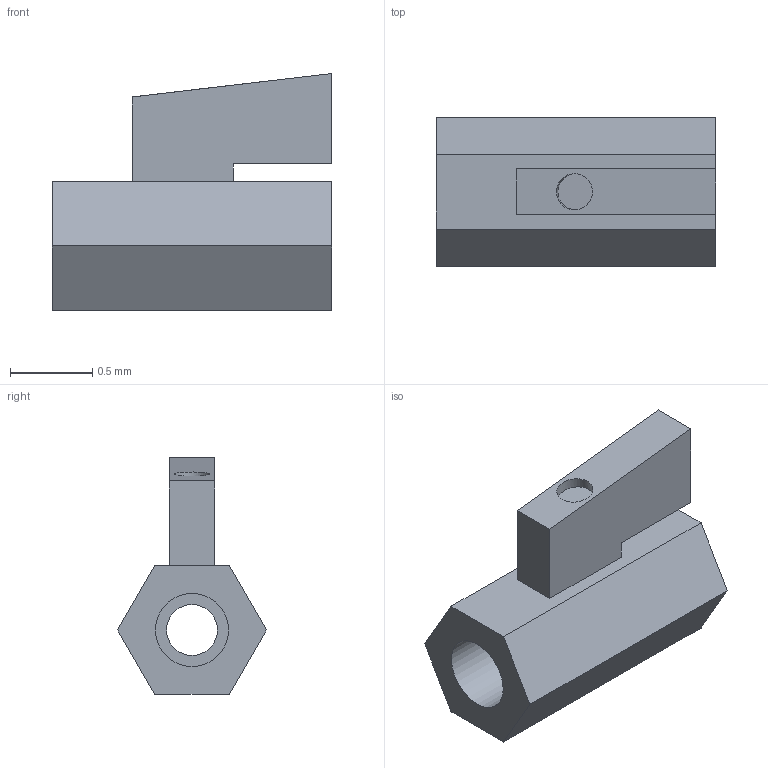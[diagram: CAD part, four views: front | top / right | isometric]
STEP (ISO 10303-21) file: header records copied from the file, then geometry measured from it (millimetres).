
FILE_DESCRIPTION(('Open CASCADE Model'),'2;1');
FILE_NAME('Open CASCADE Shape Model','2021-09-22T11:51:58',('Author'),( 'Open CASCADE'),'Open CASCADE STEP processor 7.3','Open CASCADE 7.3' ,'Unknown');
FILE_SCHEMA(('AUTOMOTIVE_DESIGN { 1 0 10303 214 1 1 1 1 }'));
Length unit declared in the file: millimetre
Products named in the file (1): Open CASCADE STEP translator 7.3 1
Bounding box: 1.7 x 0.91 x 1.44 mm (x, y, z)
Volume: 0.9 mm3; surface area: 9.6 mm2
Topology: 1 solids, 1 shells, 22 faces, 49 edges, 33 vertices
Faces by surface type: plane 18, cylinder 4
Full cylindrical faces by diameter (mm): 0.22 x1, 0.31 x1, 0.445 x2
Entity records: 1319 total; most frequent: CARTESIAN_POINT 291, DIRECTION 190, LINE 123, VECTOR 123, ORIENTED_EDGE 98, PCURVE 98, DEFINITIONAL_REPRESENTATION 98, EDGE_CURVE 49
